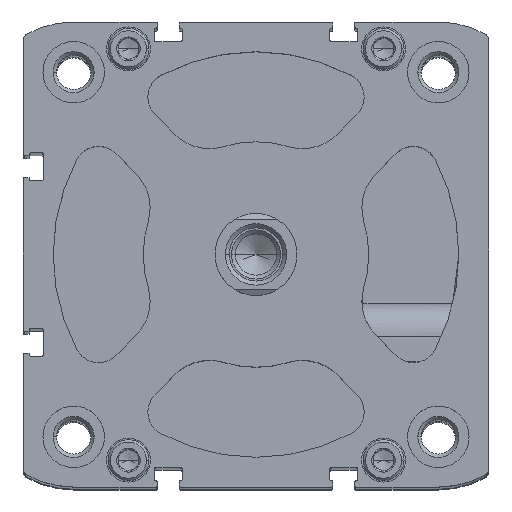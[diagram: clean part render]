
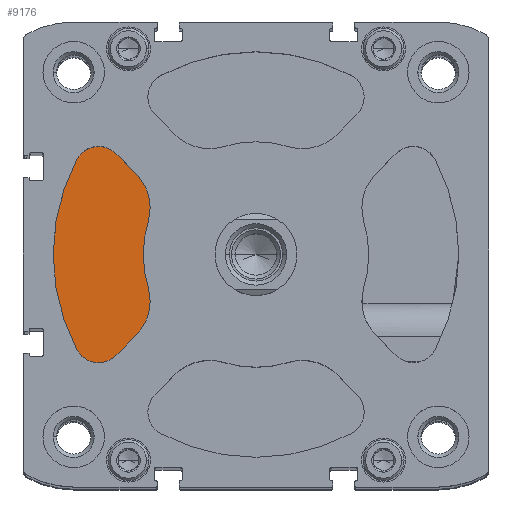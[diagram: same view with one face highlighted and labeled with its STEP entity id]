
A CAD part, top view. The second image highlights one B-rep face of the part: STEP entity #9176.
In plain terms, the highlighted planar face has unit normal (0, 0, 1).
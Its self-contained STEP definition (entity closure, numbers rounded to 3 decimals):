
#51 = EDGE_CURVE ( 'NONE', #11124, #17348, #9960, .T. ) ;
#202 = DIRECTION ( 'NONE',  ( 0., 0., 1. ) ) ;
#299 = AXIS2_PLACEMENT_3D ( 'NONE', #14272, #202, #3382 ) ;
#746 = DIRECTION ( 'NONE',  ( 0., 0., 1. ) ) ;
#1385 = CIRCLE ( 'NONE', #15816, 6. ) ;
#1394 = DIRECTION ( 'NONE',  ( -0.707, 0.707, 0. ) ) ;
#1515 = EDGE_CURVE ( 'NONE', #11297, #19911, #14398, .T. ) ;
#1623 = ORIENTED_EDGE ( 'NONE', *, *, #12313, .T. ) ;
#1702 = CIRCLE ( 'NONE', #13489, 6. ) ;
#1738 = VERTEX_POINT ( 'NONE', #15087 ) ;
#2195 = CARTESIAN_POINT ( 'NONE',  ( -38.424, -20.393, -18.8 ) ) ;
#2410 = VECTOR ( 'NONE', #16046, 1000. ) ;
#2762 = DIRECTION ( 'NONE',  ( 1., 0., 0. ) ) ;
#3024 = CARTESIAN_POINT ( 'NONE',  ( -34.181, -24.635, -18.8 ) ) ;
#3382 = DIRECTION ( 'NONE',  ( 0., 1., 0. ) ) ;
#3587 = ORIENTED_EDGE ( 'NONE', *, *, #19216, .T. ) ;
#3750 = CARTESIAN_POINT ( 'NONE',  ( -38.424, 26.393, -18.8 ) ) ;
#4087 = CIRCLE ( 'NONE', #12559, 27.5 ) ;
#4228 = EDGE_LOOP ( 'NONE', ( #17882, #10110, #14976, #14440, #12007, #3587, #17255, #4388, #1623 ) ) ;
#4388 = ORIENTED_EDGE ( 'NONE', *, *, #15718, .T. ) ;
#4896 = DIRECTION ( 'NONE',  ( 0., 1., 0. ) ) ;
#5370 = CARTESIAN_POINT ( 'NONE',  ( -26.345, 7.885, -18.8 ) ) ;
#5540 = VERTEX_POINT ( 'NONE', #3024 ) ;
#5630 = CARTESIAN_POINT ( 'NONE',  ( 0., 0., -18.8 ) ) ;
#7021 = DIRECTION ( 'NONE',  ( 0., 1., 0. ) ) ;
#7041 = DIRECTION ( 'NONE',  ( 0., 1., 0. ) ) ;
#7157 = VERTEX_POINT ( 'NONE', #3750 ) ;
#7226 = DIRECTION ( 'NONE',  ( 0., 1., 0. ) ) ;
#7227 = DIRECTION ( 'NONE',  ( 0., 0., 1. ) ) ;
#7279 = PLANE ( 'NONE',  #10884 ) ;
#7934 = CARTESIAN_POINT ( 'NONE',  ( -26.345, -7.885, -18.8 ) ) ;
#8424 = CARTESIAN_POINT ( 'NONE',  ( 0., 0., -18.8 ) ) ;
#8506 = AXIS2_PLACEMENT_3D ( 'NONE', #14816, #746, #7226 ) ;
#9176 = ADVANCED_FACE ( 'NONE', ( #16810 ), #7279, .T. ) ;
#9442 = CARTESIAN_POINT ( 'NONE',  ( -43.724, -23.205, -18.8 ) ) ;
#9960 = CIRCLE ( 'NONE', #10623, 49.5 ) ;
#10110 = ORIENTED_EDGE ( 'NONE', *, *, #20016, .T. ) ;
#10623 = AXIS2_PLACEMENT_3D ( 'NONE', #8424, #15900, #4896 ) ;
#10884 = AXIS2_PLACEMENT_3D ( 'NONE', #5630, #15282, #2762 ) ;
#10955 = CARTESIAN_POINT ( 'NONE',  ( -29.356, 19.81, -18.8 ) ) ;
#11085 = CARTESIAN_POINT ( 'NONE',  ( 0., 0., -18.8 ) ) ;
#11124 = VERTEX_POINT ( 'NONE', #11449 ) ;
#11297 = VERTEX_POINT ( 'NONE', #19889 ) ;
#11449 = CARTESIAN_POINT ( 'NONE',  ( -43.724, 23.205, -18.8 ) ) ;
#11455 = CARTESIAN_POINT ( 'NONE',  ( -38.424, 20.393, -18.8 ) ) ;
#11692 = EDGE_CURVE ( 'NONE', #20072, #19911, #4087, .T. ) ;
#11784 = DIRECTION ( 'NONE',  ( 0., 1., 0. ) ) ;
#12007 = ORIENTED_EDGE ( 'NONE', *, *, #11692, .F. ) ;
#12313 = EDGE_CURVE ( 'NONE', #7157, #11124, #1702, .T. ) ;
#12559 = AXIS2_PLACEMENT_3D ( 'NONE', #11085, #13769, #18686 ) ;
#12680 = CARTESIAN_POINT ( 'NONE',  ( -34.181, -24.635, -18.8 ) ) ;
#13424 = CARTESIAN_POINT ( 'NONE',  ( -37.842, 11.325, -18.8 ) ) ;
#13489 = AXIS2_PLACEMENT_3D ( 'NONE', #11455, #14731, #7041 ) ;
#13769 = DIRECTION ( 'NONE',  ( 0., 0., 1. ) ) ;
#14024 = LINE ( 'NONE', #10955, #17527 ) ;
#14272 = CARTESIAN_POINT ( 'NONE',  ( -37.842, -11.325, -18.8 ) ) ;
#14398 = CIRCLE ( 'NONE', #299, 12. ) ;
#14440 = ORIENTED_EDGE ( 'NONE', *, *, #1515, .T. ) ;
#14731 = DIRECTION ( 'NONE',  ( 0., 0., 1. ) ) ;
#14816 = CARTESIAN_POINT ( 'NONE',  ( -38.424, 20.393, -18.8 ) ) ;
#14976 = ORIENTED_EDGE ( 'NONE', *, *, #18361, .T. ) ;
#15087 = CARTESIAN_POINT ( 'NONE',  ( -29.356, 19.81, -18.8 ) ) ;
#15282 = DIRECTION ( 'NONE',  ( 0., 0., 1. ) ) ;
#15718 = EDGE_CURVE ( 'NONE', #18086, #7157, #18345, .T. ) ;
#15816 = AXIS2_PLACEMENT_3D ( 'NONE', #2195, #7227, #7021 ) ;
#15900 = DIRECTION ( 'NONE',  ( 0., 0., 1. ) ) ;
#16046 = DIRECTION ( 'NONE',  ( 0.707, 0.707, 0. ) ) ;
#16379 = CARTESIAN_POINT ( 'NONE',  ( -34.181, 24.635, -18.8 ) ) ;
#16810 = FACE_OUTER_BOUND ( 'NONE', #4228, .T. ) ;
#16874 = AXIS2_PLACEMENT_3D ( 'NONE', #13424, #17940, #11784 ) ;
#17190 = LINE ( 'NONE', #12680, #2410 ) ;
#17255 = ORIENTED_EDGE ( 'NONE', *, *, #19433, .T. ) ;
#17348 = VERTEX_POINT ( 'NONE', #9442 ) ;
#17527 = VECTOR ( 'NONE', #1394, 1000. ) ;
#17882 = ORIENTED_EDGE ( 'NONE', *, *, #51, .T. ) ;
#17940 = DIRECTION ( 'NONE',  ( 0., 0., 1. ) ) ;
#18086 = VERTEX_POINT ( 'NONE', #16379 ) ;
#18345 = CIRCLE ( 'NONE', #8506, 6. ) ;
#18361 = EDGE_CURVE ( 'NONE', #5540, #11297, #17190, .T. ) ;
#18686 = DIRECTION ( 'NONE',  ( 0., 1., 0. ) ) ;
#19216 = EDGE_CURVE ( 'NONE', #20072, #1738, #20155, .T. ) ;
#19433 = EDGE_CURVE ( 'NONE', #1738, #18086, #14024, .T. ) ;
#19889 = CARTESIAN_POINT ( 'NONE',  ( -29.356, -19.81, -18.8 ) ) ;
#19911 = VERTEX_POINT ( 'NONE', #7934 ) ;
#20016 = EDGE_CURVE ( 'NONE', #17348, #5540, #1385, .T. ) ;
#20072 = VERTEX_POINT ( 'NONE', #5370 ) ;
#20155 = CIRCLE ( 'NONE', #16874, 12. ) ;
